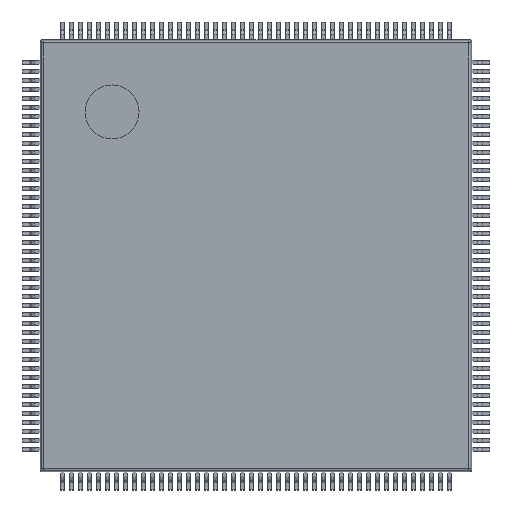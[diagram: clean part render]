
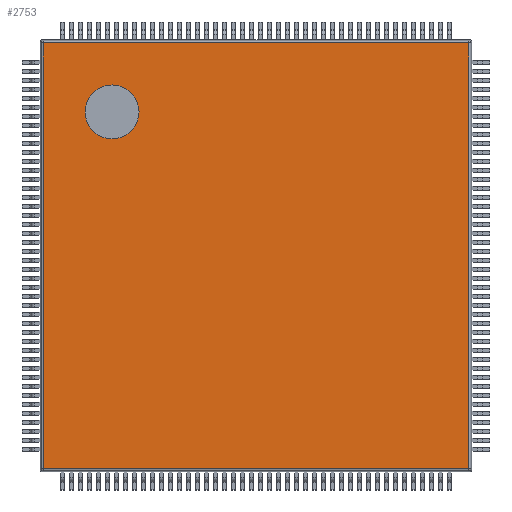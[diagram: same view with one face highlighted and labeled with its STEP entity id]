
A CAD part, top view. The second image highlights one B-rep face of the part: STEP entity #2753.
In plain terms, the highlighted planar face has unit normal (0, 0, 1).
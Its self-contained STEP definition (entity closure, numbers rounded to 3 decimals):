
#2408 = VERTEX_POINT('',#2409);
#2409 = CARTESIAN_POINT('',(0.168,0.168,1.6));
#2416 = EDGE_CURVE('',#2408,#2417,#2419,.T.);
#2417 = VERTEX_POINT('',#2418);
#2418 = CARTESIAN_POINT('',(0.168,23.832,1.6));
#2419 = LINE('',#2420,#2421);
#2420 = CARTESIAN_POINT('',(0.168,0.078,1.6));
#2421 = VECTOR('',#2422,1.);
#2422 = DIRECTION('',(0.,1.,-0.));
#2753 = ADVANCED_FACE('',(#2754,#2779),#2790,.T.);
#2754 = FACE_BOUND('',#2755,.T.);
#2755 = EDGE_LOOP('',(#2756,#2757,#2765,#2773));
#2756 = ORIENTED_EDGE('',*,*,#2416,.F.);
#2757 = ORIENTED_EDGE('',*,*,#2758,.T.);
#2758 = EDGE_CURVE('',#2408,#2759,#2761,.T.);
#2759 = VERTEX_POINT('',#2760);
#2760 = CARTESIAN_POINT('',(23.832,0.168,1.6));
#2761 = LINE('',#2762,#2763);
#2762 = CARTESIAN_POINT('',(0.078,0.168,1.6));
#2763 = VECTOR('',#2764,1.);
#2764 = DIRECTION('',(1.,-0.,0.));
#2765 = ORIENTED_EDGE('',*,*,#2766,.T.);
#2766 = EDGE_CURVE('',#2759,#2767,#2769,.T.);
#2767 = VERTEX_POINT('',#2768);
#2768 = CARTESIAN_POINT('',(23.832,23.832,1.6));
#2769 = LINE('',#2770,#2771);
#2770 = CARTESIAN_POINT('',(23.832,0.078,1.6));
#2771 = VECTOR('',#2772,1.);
#2772 = DIRECTION('',(0.,1.,-0.));
#2773 = ORIENTED_EDGE('',*,*,#2774,.F.);
#2774 = EDGE_CURVE('',#2417,#2767,#2775,.T.);
#2775 = LINE('',#2776,#2777);
#2776 = CARTESIAN_POINT('',(0.078,23.832,1.6));
#2777 = VECTOR('',#2778,1.);
#2778 = DIRECTION('',(1.,0.,0.));
#2779 = FACE_BOUND('',#2780,.T.);
#2780 = EDGE_LOOP('',(#2781));
#2781 = ORIENTED_EDGE('',*,*,#2782,.F.);
#2782 = EDGE_CURVE('',#2783,#2783,#2785,.T.);
#2783 = VERTEX_POINT('',#2784);
#2784 = CARTESIAN_POINT('',(5.5,20.,1.6));
#2785 = CIRCLE('',#2786,1.5);
#2786 = AXIS2_PLACEMENT_3D('',#2787,#2788,#2789);
#2787 = CARTESIAN_POINT('',(4.,20.,1.6));
#2788 = DIRECTION('',(0.,0.,1.));
#2789 = DIRECTION('',(1.,0.,-0.));
#2790 = PLANE('',#2791);
#2791 = AXIS2_PLACEMENT_3D('',#2792,#2793,#2794);
#2792 = CARTESIAN_POINT('',(0.,0.,1.6));
#2793 = DIRECTION('',(0.,0.,1.));
#2794 = DIRECTION('',(1.,0.,-0.));
